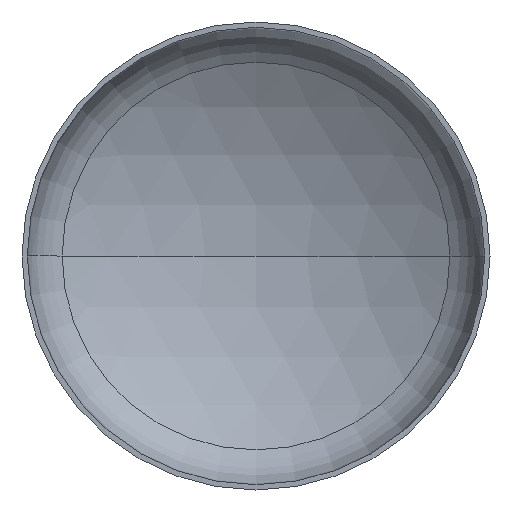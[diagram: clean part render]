
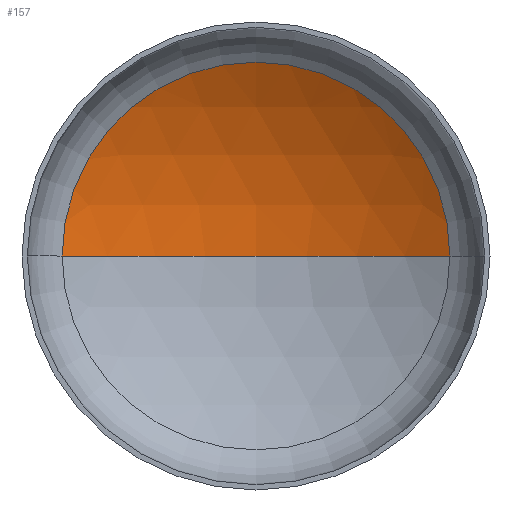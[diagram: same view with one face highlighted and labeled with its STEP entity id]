
A CAD part, front view. The second image highlights one B-rep face of the part: STEP entity #157.
In plain terms, the highlighted spherical face has radius 2880 mm.
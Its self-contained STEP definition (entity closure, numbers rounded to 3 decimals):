
#11 = AXIS2_PLACEMENT_3D ( 'NONE', #184, #231, #325 ) ;
#15 = EDGE_LOOP ( 'NONE', ( #31, #143, #22 ) ) ;
#22 = ORIENTED_EDGE ( 'NONE', *, *, #356, .T. ) ;
#28 = AXIS2_PLACEMENT_3D ( 'NONE', #146, #162, #161 ) ;
#31 = ORIENTED_EDGE ( 'NONE', *, *, #336, .F. ) ;
#32 = AXIS2_PLACEMENT_3D ( 'NONE', #163, #165, #261 ) ;
#38 = VERTEX_POINT ( 'NONE', #368 ) ;
#57 = AXIS2_PLACEMENT_3D ( 'NONE', #206, #305, #260 ) ;
#87 = VERTEX_POINT ( 'NONE', #342 ) ;
#118 = VERTEX_POINT ( 'NONE', #199 ) ;
#143 = ORIENTED_EDGE ( 'NONE', *, *, #331, .T. ) ;
#146 = CARTESIAN_POINT ( 'NONE',  ( 0., -1858.972, 0. ) ) ;
#157 = ADVANCED_FACE ( 'NONE', ( #246 ), #293, .F. ) ;
#161 = DIRECTION ( 'NONE',  ( -1., 0., 0. ) ) ;
#162 = DIRECTION ( 'NONE',  ( 0., 0., -1. ) ) ;
#163 = CARTESIAN_POINT ( 'NONE',  ( 0., -1858.972, 0. ) ) ;
#165 = DIRECTION ( 'NONE',  ( 0., 0., 1. ) ) ;
#184 = CARTESIAN_POINT ( 'NONE',  ( 0., 604.787, 0. ) ) ;
#199 = CARTESIAN_POINT ( 'NONE',  ( -1491.406, 604.787, 0. ) ) ;
#206 = CARTESIAN_POINT ( 'NONE',  ( 0., -1858.972, 0. ) ) ;
#220 = CIRCLE ( 'NONE', #28, 2880. ) ;
#231 = DIRECTION ( 'NONE',  ( 0., -1., 0. ) ) ;
#246 = FACE_OUTER_BOUND ( 'NONE', #15, .T. ) ;
#260 = DIRECTION ( 'NONE',  ( -1., 0., 0. ) ) ;
#261 = DIRECTION ( 'NONE',  ( 1., 0., 0. ) ) ;
#293 = SPHERICAL_SURFACE ( 'NONE', #57, 2880. ) ;
#305 = DIRECTION ( 'NONE',  ( 0., 0., -1. ) ) ;
#325 = DIRECTION ( 'NONE',  ( 1., 0., 0. ) ) ;
#331 = EDGE_CURVE ( 'NONE', #87, #38, #220, .T. ) ;
#336 = EDGE_CURVE ( 'NONE', #87, #118, #395, .T. ) ;
#342 = CARTESIAN_POINT ( 'NONE',  ( 0., 1021.028, 0. ) ) ;
#356 = EDGE_CURVE ( 'NONE', #38, #118, #389, .T. ) ;
#368 = CARTESIAN_POINT ( 'NONE',  ( 1491.406, 604.787, 0. ) ) ;
#389 = CIRCLE ( 'NONE', #11, 1491.406 ) ;
#395 = CIRCLE ( 'NONE', #32, 2880. ) ;
